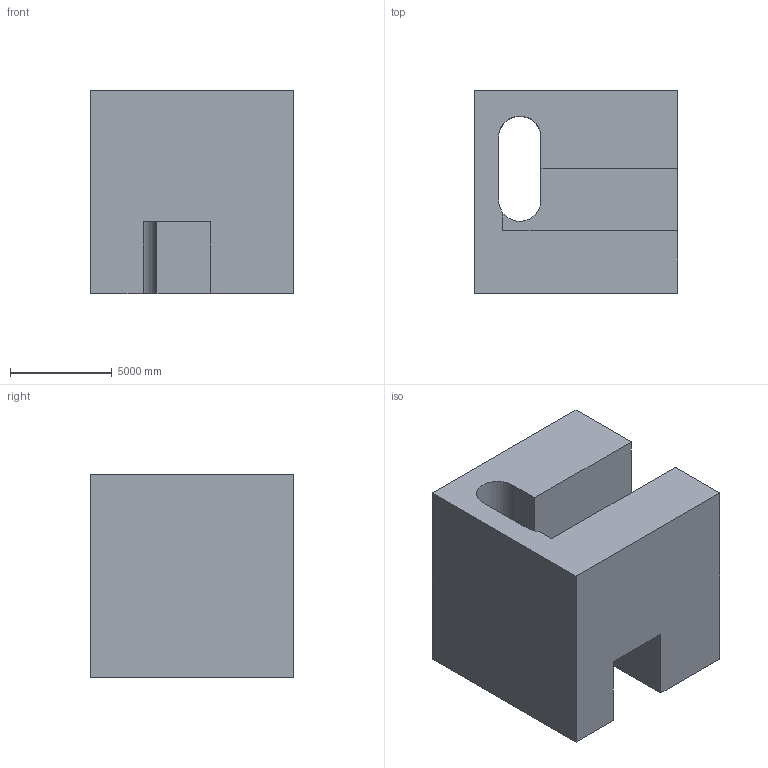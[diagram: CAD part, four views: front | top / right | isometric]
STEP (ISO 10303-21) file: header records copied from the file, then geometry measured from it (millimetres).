
FILE_DESCRIPTION (( 'STEP AP203' ), '1' );
FILE_NAME ('1296.STEP', '2022-08-18T13:37:01', ( 'user' ), ( '' ), 'SwSTEP 2.0', 'SolidWorks 2021', '' );
FILE_SCHEMA (( 'CONFIG_CONTROL_DESIGN' ));
Length unit declared in the file: centimetre
Products named in the file (1): 1296
Bounding box: 10000 x 10000 x 10000 mm (x, y, z)
Volume: 768004629349.5 mm3; surface area: 760342382.7 mm2
Topology: 1 solids, 1 shells, 18 faces, 54 edges, 36 vertices
Faces by surface type: plane 16, cylinder 2
Entity records: 685 total; most frequent: CARTESIAN_POINT 109, ORIENTED_EDGE 108, DIRECTION 98, EDGE_CURVE 54, VECTOR 48, LINE 48, VERTEX_POINT 36, AXIS2_PLACEMENT_3D 25
